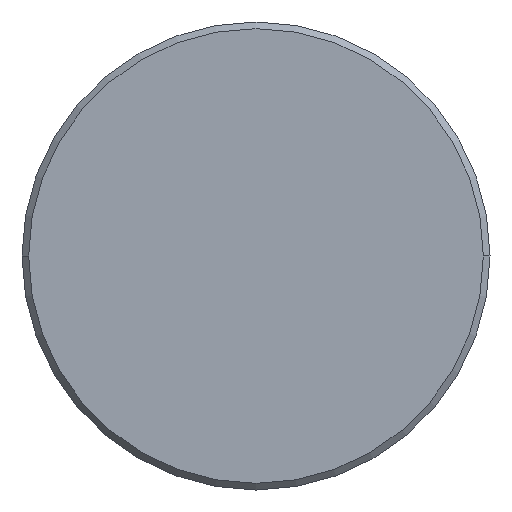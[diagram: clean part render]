
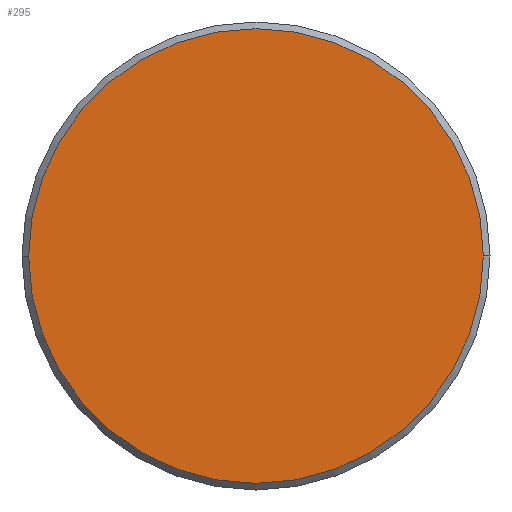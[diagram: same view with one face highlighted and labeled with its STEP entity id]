
A CAD part, left-side view. The second image highlights one B-rep face of the part: STEP entity #295.
In plain terms, the highlighted planar face has unit normal (-1, 0, 0).
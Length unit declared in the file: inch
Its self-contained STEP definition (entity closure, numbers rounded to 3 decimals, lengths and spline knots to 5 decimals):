
#30 = AXIS2_PLACEMENT_3D ( 'NONE', #105, #352, #171 ) ;
#52 = CARTESIAN_POINT ( 'NONE',  ( 0., 0.13662, 0. ) ) ;
#66 = CIRCLE ( 'NONE', #237, 0.13662 ) ;
#79 = CARTESIAN_POINT ( 'NONE',  ( 0., 0., 0. ) ) ;
#80 = PLANE ( 'NONE',  #208 ) ;
#102 = DIRECTION ( 'NONE',  ( -1., 0., 0. ) ) ;
#105 = CARTESIAN_POINT ( 'NONE',  ( 0., 0., 0. ) ) ;
#118 = EDGE_LOOP ( 'NONE', ( #326, #123 ) ) ;
#123 = ORIENTED_EDGE ( 'NONE', *, *, #306, .T. ) ;
#138 = DIRECTION ( 'NONE',  ( 0., -1., 0. ) ) ;
#171 = DIRECTION ( 'NONE',  ( 0., -1., 0. ) ) ;
#187 = VERTEX_POINT ( 'NONE', #281 ) ;
#208 = AXIS2_PLACEMENT_3D ( 'NONE', #79, #102, #138 ) ;
#237 = AXIS2_PLACEMENT_3D ( 'NONE', #347, #375, #323 ) ;
#268 = CIRCLE ( 'NONE', #30, 0.13662 ) ;
#281 = CARTESIAN_POINT ( 'NONE',  ( 0., -0.13662, 0. ) ) ;
#295 = ADVANCED_FACE ( 'NONE', ( #304 ), #80, .T. ) ;
#304 = FACE_OUTER_BOUND ( 'NONE', #118, .T. ) ;
#306 = EDGE_CURVE ( 'NONE', #187, #330, #66, .T. ) ;
#323 = DIRECTION ( 'NONE',  ( 0., -1., 0. ) ) ;
#326 = ORIENTED_EDGE ( 'NONE', *, *, #339, .T. ) ;
#330 = VERTEX_POINT ( 'NONE', #52 ) ;
#339 = EDGE_CURVE ( 'NONE', #330, #187, #268, .T. ) ;
#347 = CARTESIAN_POINT ( 'NONE',  ( 0., 0., 0. ) ) ;
#352 = DIRECTION ( 'NONE',  ( -1., 0., 0. ) ) ;
#375 = DIRECTION ( 'NONE',  ( -1., 0., 0. ) ) ;
